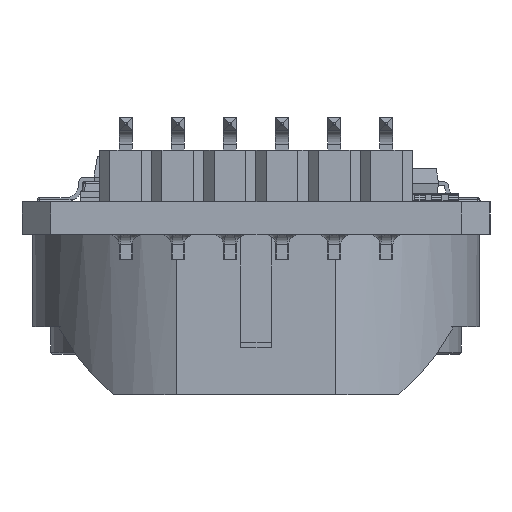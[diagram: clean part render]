
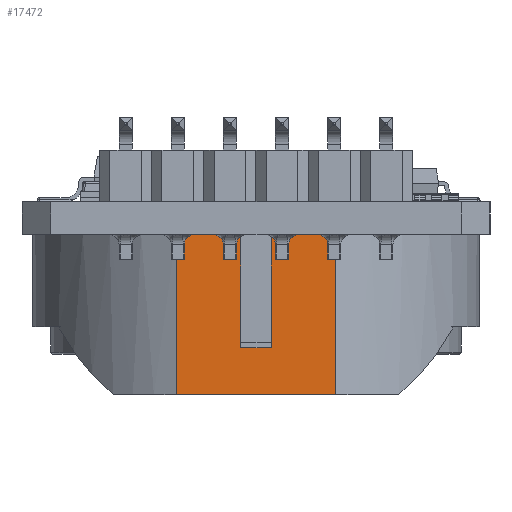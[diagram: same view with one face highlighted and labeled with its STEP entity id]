
A CAD part, left-side view. The second image highlights one B-rep face of the part: STEP entity #17472.
In plain terms, the highlighted planar face has unit normal (-1, 0, 0).
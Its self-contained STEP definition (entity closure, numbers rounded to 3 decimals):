
#17080=CARTESIAN_POINT('',(-11.6,-3.89,-9.41));
#17081=VERTEX_POINT('',#17080);
#17088=CARTESIAN_POINT('',(-11.6,3.89,-9.41));
#17089=VERTEX_POINT('',#17088);
#17090=CARTESIAN_POINT('',(-11.6,-3.89,-9.41));
#17091=DIRECTION('',(0.,1.,0.));
#17092=VECTOR('',#17091,7.78);
#17093=LINE('',#17090,#17092);
#17094=EDGE_CURVE('',#17081,#17089,#17093,.T.);
#17359=CARTESIAN_POINT('',(-11.6,-0.75,-1.61));
#17360=VERTEX_POINT('',#17359);
#17367=CARTESIAN_POINT('',(-11.6,-3.89,-1.61));
#17368=VERTEX_POINT('',#17367);
#17369=CARTESIAN_POINT('',(-11.6,-0.75,-1.61));
#17370=DIRECTION('',(0.,-1.,0.));
#17371=VECTOR('',#17370,3.14);
#17372=LINE('',#17369,#17371);
#17373=EDGE_CURVE('',#17360,#17368,#17372,.T.);
#17391=CARTESIAN_POINT('',(-11.6,3.89,-1.61));
#17392=VERTEX_POINT('',#17391);
#17399=CARTESIAN_POINT('',(-11.6,0.75,-1.61));
#17400=VERTEX_POINT('',#17399);
#17401=CARTESIAN_POINT('',(-11.6,3.89,-1.61));
#17402=DIRECTION('',(0.,-1.,0.));
#17403=VECTOR('',#17402,3.14);
#17404=LINE('',#17401,#17403);
#17405=EDGE_CURVE('',#17392,#17400,#17404,.T.);
#17424=CARTESIAN_POINT('',(-11.6,3.89,-1.61));
#17425=DIRECTION('',(0.,0.,-1.));
#17426=VECTOR('',#17425,7.8);
#17427=LINE('',#17424,#17426);
#17428=EDGE_CURVE('',#17392,#17089,#17427,.T.);
#17433=CARTESIAN_POINT('',(-11.6,3.89,6.699));
#17434=DIRECTION('',(-1.,0.,0.));
#17435=DIRECTION('',(0.,0.,1.));
#17436=AXIS2_PLACEMENT_3D('',#17433,#17434,#17435);
#17437=PLANE('',#17436);
#17438=CARTESIAN_POINT('',(-11.6,-0.75,-7.11));
#17439=VERTEX_POINT('',#17438);
#17440=CARTESIAN_POINT('',(-11.6,-0.75,-7.11));
#17441=DIRECTION('',(0.,0.,1.));
#17442=VECTOR('',#17441,5.5);
#17443=LINE('',#17440,#17442);
#17444=EDGE_CURVE('',#17439,#17360,#17443,.T.);
#17445=ORIENTED_EDGE('',*,*,#17444,.F.);
#17446=CARTESIAN_POINT('',(-11.6,0.75,-7.11));
#17447=VERTEX_POINT('',#17446);
#17448=CARTESIAN_POINT('',(-11.6,0.75,-7.11));
#17449=DIRECTION('',(0.,-1.,0.));
#17450=VECTOR('',#17449,1.5);
#17451=LINE('',#17448,#17450);
#17452=EDGE_CURVE('',#17447,#17439,#17451,.T.);
#17453=ORIENTED_EDGE('',*,*,#17452,.F.);
#17454=CARTESIAN_POINT('',(-11.6,0.75,-1.61));
#17455=DIRECTION('',(0.,0.,-1.));
#17456=VECTOR('',#17455,5.5);
#17457=LINE('',#17454,#17456);
#17458=EDGE_CURVE('',#17400,#17447,#17457,.T.);
#17459=ORIENTED_EDGE('',*,*,#17458,.F.);
#17460=ORIENTED_EDGE('',*,*,#17405,.F.);
#17461=ORIENTED_EDGE('',*,*,#17428,.T.);
#17462=ORIENTED_EDGE('',*,*,#17094,.F.);
#17463=CARTESIAN_POINT('',(-11.6,-3.89,-1.61));
#17464=DIRECTION('',(0.,0.,-1.));
#17465=VECTOR('',#17464,7.8);
#17466=LINE('',#17463,#17465);
#17467=EDGE_CURVE('',#17368,#17081,#17466,.T.);
#17468=ORIENTED_EDGE('',*,*,#17467,.F.);
#17469=ORIENTED_EDGE('',*,*,#17373,.F.);
#17470=EDGE_LOOP('',(#17445,#17453,#17459,#17460,#17461,#17462,#17468,#17469));
#17471=FACE_BOUND('',#17470,.T.);
#17472=ADVANCED_FACE('',(#17471),#17437,.T.);
